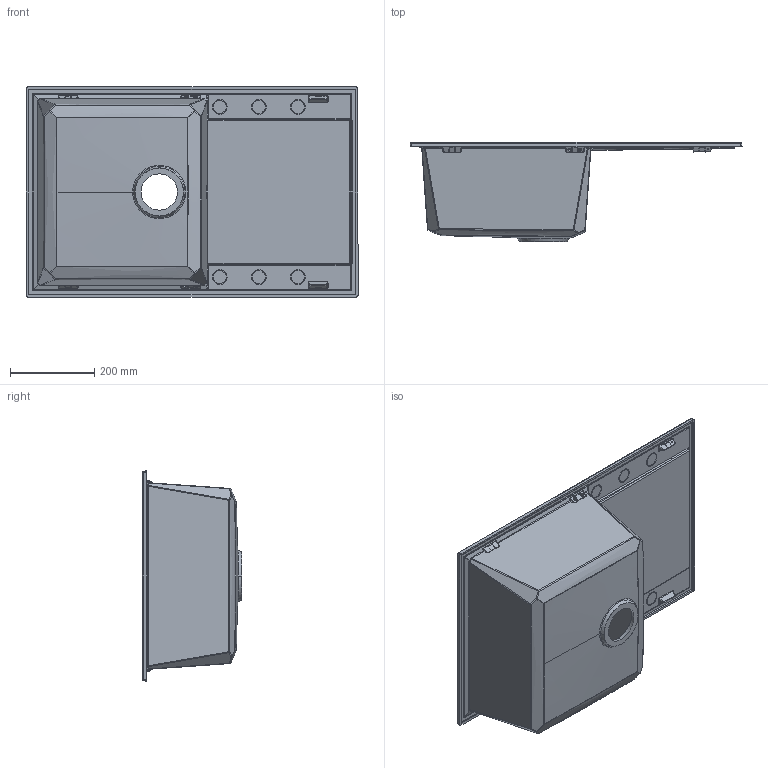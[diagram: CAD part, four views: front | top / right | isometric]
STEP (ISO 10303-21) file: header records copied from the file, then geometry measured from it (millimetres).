
FILE_DESCRIPTION (( 'STEP AP203' ), '1' );
FILE_NAME ('Easy 300.STEP', '2018-10-10T14:49:00', ( '' ), ( '' ), 'SwSTEP 2.0', 'SolidWorks 2013', '' );
FILE_SCHEMA (( 'CONFIG_CONTROL_DESIGN' ));
Length unit declared in the file: millimetre
Products named in the file (1): Easy 300
Bounding box: 790 x 235.74 x 500 mm (x, y, z)
Volume: 5604589.4 mm3; surface area: 1406178.2 mm2
Topology: 1 solids, 1 shells, 766 faces, 1800 edges, 1018 vertices
Faces by surface type: bspline 385, cylinder 262, plane 109, cone 10
Entity records: 33437 total; most frequent: CARTESIAN_POINT 18802, ORIENTED_EDGE 3520, DIRECTION 2392, EDGE_CURVE 1760, VERTEX_POINT 1018, AXIS2_PLACEMENT_3D 947, EDGE_LOOP 792, ADVANCED_FACE 766
